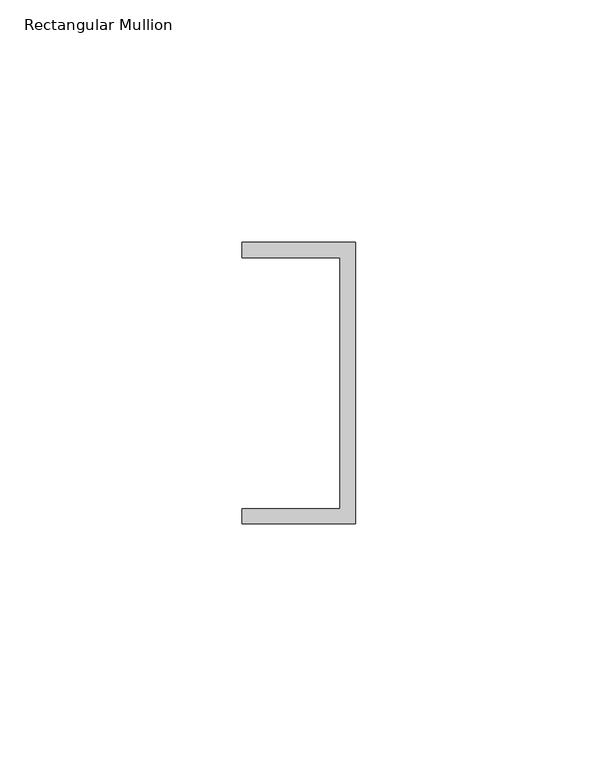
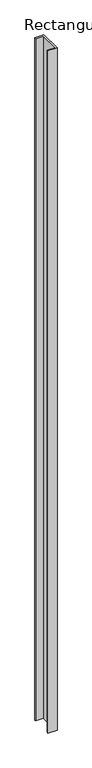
"""IFC4 building model written with IfcOpenShell, lengths in millimetres: member geometry, Rectangular Mullion : Frame-Teknion-Altos-Base_Channel."""

from ifc_helpers import new_model, si_unit, frame, origin, place, context, project, spatial, polyline, outline, extrude, source, transform, mapped, element, save


def rectangular_mullion_44a558e4(model_context):
    return source(origin(), model_context, "Body", "SweptSolid", [
        extrude(outline(polyline([(0.0, 29.0214844), (0.0, -29.0214844), (-23.3164063, -29.0214844), (-23.3164063, -25.8464844), (-3.175, -25.8464844), (-3.175, 25.8464844), (-23.3164063, 25.8464844), (-23.3164063, 29.0214844), (0.0, 29.0214844)])), frame((0.0, 0.0, -1850.3304687), z_axis=(0.0, 0.0, 1.0), x_axis=(1.0, 0.0, 0.0)), (0.0, 0.0, 1.0), 1850.3304687),
    ])


if __name__ == "__main__":
    model = new_model("IFC4")
    model_context = context("Model", 3, world=origin())
    ifc_project = project(units=[si_unit("LENGTHUNIT", "METRE", prefix="MILLI")], contexts=[model_context])
    site = spatial("IfcSite", under=ifc_project)
    building = spatial("IfcBuilding", under=site)
    placement = place(None, origin())
    rectangular_mullion_shape = rectangular_mullion_44a558e4(model_context)
    element("IfcMember", 1, ObjectType="Rectangular Mullion : Frame-Teknion-Altos-Base_Channel", at=placement, inside=building, context=model_context, shape_type="MappedRepresentation", body=[
        mapped(rectangular_mullion_shape, transform((0.0, 0.0, 0.0), x_axis=(1.0, 0.0, 0.0), y_axis=(0.0, 1.0, 0.0), z_axis=(0.0, 0.0, 1.0))),
    ])
    save(model, "model.ifc")
